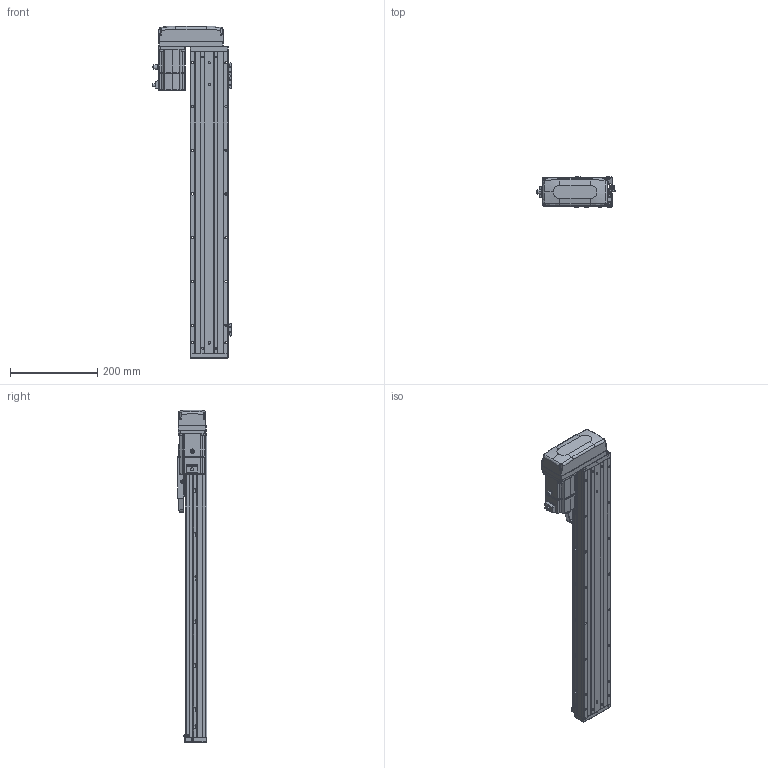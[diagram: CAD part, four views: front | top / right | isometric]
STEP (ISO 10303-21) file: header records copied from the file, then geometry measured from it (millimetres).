
FILE_DESCRIPTION (( 'STEP AP203' ), '1' );
FILE_NAME ('CTHA86-500-BR-M20-C4L.step', '2022-04-26T01:00:18', ( '微软用户' ), ( '微软中国' ), 'SwSTEP 2.0', 'SolidWorks 2020', '' );
FILE_SCHEMA (( 'CONFIG_CONTROL_DESIGN' ));
Length unit declared in the file: millimetre
Products named in the file (21): CTHA86-031; KTHA86-001_690; KTHA86-005; GBT70.1 M5℅16; CTHA86-030; GB¨uT 70.2-M3¡Á5_M3¡Á6; GBT 70.1-M3×16; GBT 70.3-M3℅6; EE_SX911P_R; GBT 70.1-M3℅6; CTHA86-015-1_CTHA86-015-2; CTHA60-017; CTHA60-016; CTHA86-033; CTHA60-021; _X2_4E0983F1_X0_200W_1; CTHA86-500-BR-M20-C4L; GBT77-2000 M3×3; CTHA86-002; KTHA86-004; GBT 70.1-M3×20
Assembly tree (66 placements, depth 2):
  CTHA86-500-BR-M20-C4L
    KTHA86-001_690
    KTHA86-004
    KTHA86-005
    GB¨uT 70.2-M3¡Á5_M3¡Á6  x10
    EE_SX911P_R  x3
    CTHA60-017  x3
    CTHA60-021  x2
    GBT77-2000 M3×3  x6
    GBT 70.1-M3×20
    GBT70.1 M5℅16  x14
    GBT 70.1-M3×16  x5
    GBT 70.1-M3℅6  x6
    CTHA60-016  x2
    _X2_4E0983F1_X0_200W_1
    CTHA86-002
    CTHA86-031
    CTHA86-030  x2
    GBT 70.3-M3℅6  x4
    CTHA86-015-1_CTHA86-015-2
    CTHA86-033
Bounding box: 178.52 x 68 x 759 mm (x, y, z)
Volume: 3120241.9 mm3; surface area: 546054.3 mm2
Topology: 68 solids, 68 shells, 2766 faces, 6596 edges, 4060 vertices
Faces by surface type: plane 1451, cylinder 717, cone 367, torus 132, bspline 75, sphere 24
Entity records: 48435 total; most frequent: CARTESIAN_POINT 9395, DIRECTION 7519, ORIENTED_EDGE 7292, EDGE_CURVE 3646, AXIS2_PLACEMENT_3D 2568, VECTOR 2383, LINE 2383, VERTEX_POINT 2292
